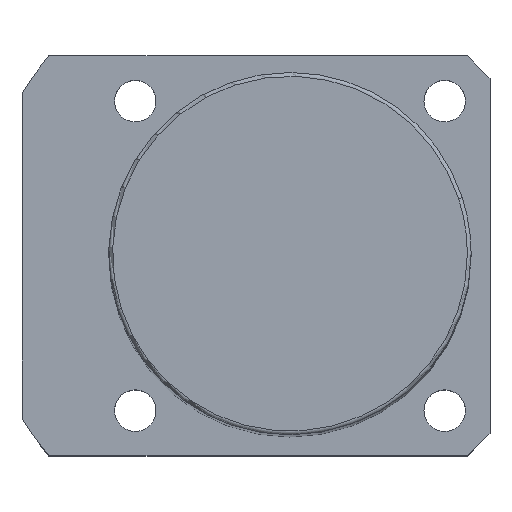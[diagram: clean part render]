
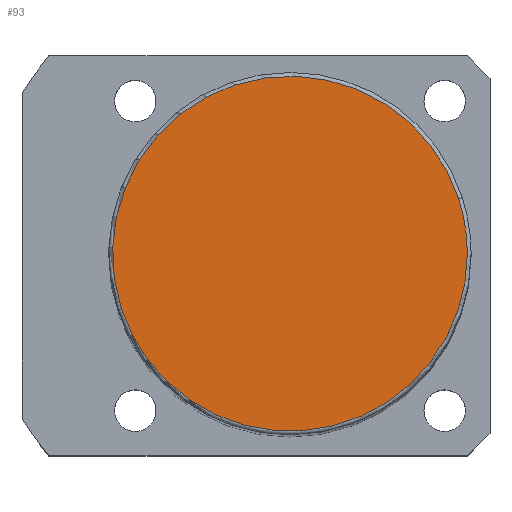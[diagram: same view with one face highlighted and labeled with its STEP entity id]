
A CAD part, top view. The second image highlights one B-rep face of the part: STEP entity #93.
In plain terms, the highlighted planar face has unit normal (0, 0, 1).
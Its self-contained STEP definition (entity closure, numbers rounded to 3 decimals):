
#16=CARTESIAN_POINT('',(22.35,7.262,179.0));
#17=VERTEX_POINT('',#16);
#45=CARTESIAN_POINT('',(-22.35,-7.262,179.0));
#46=VERTEX_POINT('',#45);
#54=CARTESIAN_POINT('',(0.0,0.0,179.0));
#55=DIRECTION('',(0.0,0.0,1.0));
#56=DIRECTION('',(1.0,0.0,0.0));
#57=AXIS2_PLACEMENT_3D('',#54,#55,#56);
#58=CIRCLE('',#57,23.5);
#59=EDGE_CURVE('no 890',#17,#46,#58,.T.);
#69=CARTESIAN_POINT('',(23.5,0.0,179.0));
#70=VERTEX_POINT('',#69);
#71=CARTESIAN_POINT('',(0.0,0.0,179.0));
#72=DIRECTION('',(0.0,0.0,1.0));
#73=DIRECTION('',(1.0,0.0,0.0));
#74=AXIS2_PLACEMENT_3D('',#71,#72,#73);
#75=CIRCLE('',#74,23.5);
#76=EDGE_CURVE('no 899',#70,#17,#75,.T.);
#77=ORIENTED_EDGE('',*,*,#76,.T.);
#78=ORIENTED_EDGE('',*,*,#59,.T.);
#79=CARTESIAN_POINT('',(0.0,0.0,179.0));
#80=DIRECTION('',(0.0,0.0,1.0));
#81=DIRECTION('',(1.0,0.0,0.0));
#82=AXIS2_PLACEMENT_3D('',#79,#80,#81);
#83=CIRCLE('',#82,23.5);
#84=EDGE_CURVE('no 905',#46,#70,#83,.T.);
#85=ORIENTED_EDGE('',*,*,#84,.T.);
#86=EDGE_LOOP('',(#77,#78,#85));
#87=FACE_OUTER_BOUND('',#86,.T.);
#88=CARTESIAN_POINT('',(0.0,0.0,179.0));
#89=DIRECTION('',(0.0,0.0,1.0));
#90=DIRECTION('',(1.0,0.0,0.0));
#91=AXIS2_PLACEMENT_3D('',#88,#89,#90);
#92=PLANE('',#91);
#93=ADVANCED_FACE('no 892',(#87),#92,.T.);
